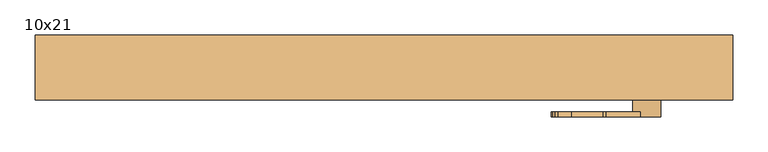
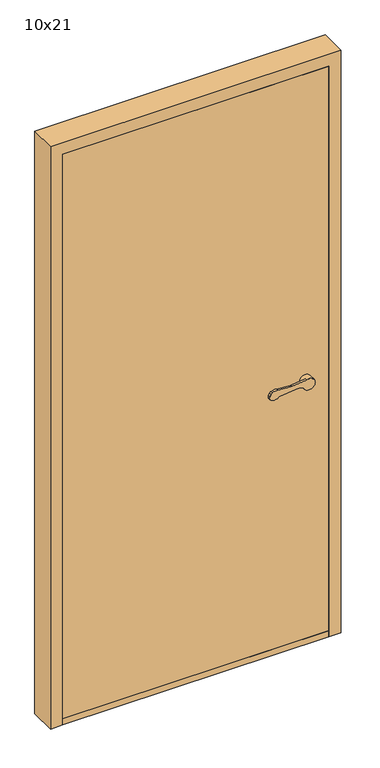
"""IFC4 building model written with IfcOpenShell, lengths in millimetres: door geometry, Innerdør Slett (Diplomat) : 10x21."""

from ifc_helpers import new_model, si_unit, point, frame, frame_2d, origin, origin_with_axes, place, context, project, spatial, polyline, circle_curve, trimmed, segment, composite_curve, outline, extrude, source, transform, mapped, element, save
from ifc_brep_helpers import plane_surface, cylinder_surface, revolved_surface, advanced_brep


def door_10x21_abd938eb(model_context):
    return source(origin(), model_context, "Body", "SolidModel", [
        advanced_brep(
        [(393.9611305, 9.0, 949.1175955), (388.8520664, 9.0, 949.9496913), (326.0476109, 9.0, 943.6260011), (296.721536, 9.0, 938.7393398), (291.8691983, 9.0, 951.8913379), (295.505009, 9.0, 959.9624074), (300.3175669, 9.0, 964.8810513), (318.8963175, 9.0, 967.2639242), (363.6202158, 9.0, 964.1804415), (368.6891233, 9.0, 964.26032), (417.2687793, 9.0, 969.1517356), (446.379633, 9.0, 951.3474568), (408.3841161, 9.0, 942.6204086), (368.6891233, 1.8915284, 964.26032), (363.6202158, 1.8915284, 964.1804415), (318.8963175, 1.8915284, 967.2639242), (300.3175669, 1.8915284, 964.8810513), (295.505009, 1.8915284, 959.9624074), (291.8691983, 1.8915284, 951.8913379), (296.721536, 1.8915284, 938.7393398), (326.0476109, 1.8915284, 943.6260011), (388.8520664, 1.8915284, 949.9496913), (393.9611305, 1.8915284, 949.1175955), (408.3841161, 1.8915284, 942.6204086), (406.379633, 1.8915284, 951.3474568), (417.2687793, 1.8915284, 969.1517356), (446.379633, -26.0, 951.3474568), (406.379633, -26.0, 951.3474568)],
        [
            (0, 1, circle_curve(frame((389.8538865, 9.0, 940.0), z_axis=(0.0, -1.0, 0.0), x_axis=(-0.9949691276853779, 0.0, -0.10018200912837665)), 10.0)),
            (1, 2),
            (2, 3, circle_curve(frame((307.8569644, 9.0, 962.352734), z_axis=(0.0, 1.0, 0.0), x_axis=(-0.9949691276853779, 0.0, -0.10018200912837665)), 26.1072815)),
            (3, 4, circle_curve(frame((300.9867937, 9.0, 947.7840939), z_axis=(0.0, 1.0, 0.0), x_axis=(-0.9949691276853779, 0.0, -0.10018200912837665)), 10.0)),
            (4, 5),
            (5, 6, circle_curve(frame((304.6226045, 9.0, 955.8551634), z_axis=(0.0, 1.0, 0.0), x_axis=(-0.9949691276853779, 0.0, -0.10018200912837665)), 10.0)),
            (6, 7, circle_curve(frame((313.2326797, 9.0, 937.8033877), z_axis=(0.0, 1.0, 0.0), x_axis=(-0.9949691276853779, 0.0, -0.10018200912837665)), 30.0)),
            (7, 8),
            (8, 9, circle_curve(frame((365.683663, 9.0, 994.1093938), z_axis=(0.0, -1.0, 0.0), x_axis=(-0.9949691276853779, 0.0, -0.10018200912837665)), 30.0)),
            (9, 10),
            (10, 11, circle_curve(frame((426.379633, 9.0, 951.3474568), z_axis=(0.0, 1.0, 0.0), x_axis=(-1.0, 0.0, 0.0)), 20.0)),
            (11, 12, circle_curve(frame((426.379633, 9.0, 951.3474568), z_axis=(0.0, 1.0, 0.0), x_axis=(-1.0, 0.0, 0.0)), 20.0)),
            (12, 0),
            (13, 14, circle_curve(frame((365.683663, 1.8915284, 994.1093938), z_axis=(0.0, 1.0, 0.0), x_axis=(-0.9949691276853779, 0.0, -0.10018200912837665)), 30.0)),
            (14, 15),
            (15, 16, circle_curve(frame((313.2326797, 1.8915284, 937.8033877), z_axis=(0.0, -1.0, 0.0), x_axis=(-0.9949691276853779, 0.0, -0.10018200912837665)), 30.0)),
            (16, 17, circle_curve(frame((304.6226045, 1.8915284, 955.8551634), z_axis=(0.0, -1.0, 0.0), x_axis=(-0.9949691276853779, 0.0, -0.10018200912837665)), 10.0)),
            (17, 18),
            (18, 19, circle_curve(frame((300.9867937, 1.8915284, 947.7840939), z_axis=(0.0, -1.0, 0.0), x_axis=(-0.9949691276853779, 0.0, -0.10018200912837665)), 10.0)),
            (19, 20, circle_curve(frame((307.8569644, 1.8915284, 962.352734), z_axis=(0.0, -1.0, 0.0), x_axis=(-0.9949691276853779, 0.0, -0.10018200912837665)), 26.1072815)),
            (20, 21),
            (21, 22, circle_curve(frame((389.8538865, 1.8915284, 940.0), z_axis=(0.0, 1.0, 0.0), x_axis=(-0.9949691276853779, 0.0, -0.10018200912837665)), 10.0)),
            (22, 23),
            (23, 24, circle_curve(frame((426.379633, 1.8915284, 951.3474568), z_axis=(0.0, 1.0, 0.0), x_axis=(-1.0, 0.0, 0.0)), 20.0)),
            (24, 25, circle_curve(frame((426.379633, 1.8915284, 951.3474568), z_axis=(0.0, 1.0, 0.0), x_axis=(-1.0, 0.0, 0.0)), 20.0)),
            (25, 13),
            (9, 13),
            (25, 10),
            (22, 0),
            (12, 23),
            (21, 1),
            (20, 2),
            (19, 3),
            (18, 4),
            (17, 5),
            (16, 6),
            (15, 7),
            (14, 8),
            (26, 27, circle_curve(frame((426.379633, -26.0, 951.3474568), z_axis=(0.0, -1.0, 0.0), x_axis=(-1.0, 0.0, 0.0)), 20.0)),
            (27, 26, circle_curve(frame((426.379633, -26.0, 951.3474568), z_axis=(0.0, -1.0, 0.0), x_axis=(-1.0, 0.0, 0.0)), 20.0)),
            (27, 24),
            (11, 26),
        ],
        [
            plane_surface(frame((417.6960588, 9.0, 969.1947577), z_axis=(0.0, 1.0000000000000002, 0.0), x_axis=(0.9949691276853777, 0.0, 0.10018200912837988))),
            plane_surface(frame((417.6960588, 1.8915284, 969.1947577), z_axis=(0.0, -1.0000000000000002, 0.0), x_axis=(-0.9949691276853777, 0.0, -0.10018200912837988))),
            plane_surface(frame((368.6891233, 9.0, 964.26032), z_axis=(-0.10018200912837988, 0.0, 0.9949691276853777), x_axis=(0.0, -1.0, 0.0))),
            plane_surface(frame((426.9687366, 9.0, 934.2485115), z_axis=(-0.41072439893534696, 0.0, -0.91175954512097), x_axis=(0.0, -1.0, 0.0))),
            revolved_surface(polyline([(379.9041952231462, 1.8915284, 938.9981799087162), (379.9041952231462, 9.0, 938.9981799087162)]), (389.8538865, 1.8915284, 940.0), (0.0, -1.0, 0.0)),
            plane_surface(frame((388.8520664, 9.0, 949.9496913), z_axis=(0.10018200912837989, 0.0, -0.9949691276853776), x_axis=(0.0, -1.0, 0.0))),
            cylinder_surface(frame((307.8569644, 1.8915284, 962.352734), z_axis=(0.0, 1.0, 0.0), x_axis=(-0.9949691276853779, 0.0, -0.10018200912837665)), 26.1072815),
            cylinder_surface(frame((300.9867937, 1.8915284, 947.7840939), z_axis=(0.0, 1.0, 0.0), x_axis=(-0.9949691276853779, 0.0, -0.10018200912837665)), 10.0),
            plane_surface(frame((291.8691983, 9.0, 951.8913379), z_axis=(-0.9117595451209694, 0.0, 0.41072439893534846), x_axis=(0.0, -1.0, 0.0))),
            cylinder_surface(frame((304.6226045, 1.8915284, 955.8551634), z_axis=(0.0, 1.0, 0.0), x_axis=(-0.9949691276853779, 0.0, -0.10018200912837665)), 10.0),
            cylinder_surface(frame((313.2326797, 1.8915284, 937.8033877), z_axis=(0.0, 1.0, 0.0), x_axis=(-0.9949691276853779, 0.0, -0.10018200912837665)), 30.0),
            plane_surface(frame((318.8963175, 9.0, 967.2639242), z_axis=(0.06878157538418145, 0.0, 0.9976317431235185), x_axis=(0.0, -1.0, 0.0))),
            revolved_surface(polyline([(335.8345891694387, 1.8915284, 991.1039335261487), (335.8345891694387, 9.0, 991.1039335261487)]), (365.683663, 1.8915284, 994.1093938), (0.0, -1.0, 0.0)),
            plane_surface(frame((406.379633, -26.0, 951.3474568), z_axis=(0.0, -1.0, 0.0), x_axis=(0.0, 0.0, -1.0))),
            cylinder_surface(frame((426.379633, -26.0, 951.3474568), z_axis=(0.0, 1.0, 0.0), x_axis=(-1.0, 0.0, 0.0)), 20.0),
        ],
        [
            (0, [[1, 2, 3, 4, 5, 6, 7, 8, 9, 10, 11, 12, 13]]),
            (1, [[14, 15, 16, 17, 18, 19, 20, 21, 22, 23, 24, 25, 26]]),
            (2, [[27, -26, 28, -10]]),
            (3, [[29, -13, 30, -23]]),
            (4, [[-1, -29, -22, 31]]),
            (5, [[-2, -31, -21, 32]]),
            (6, [[-3, -32, -20, 33]]),
            (7, [[-4, -33, -19, 34]]),
            (8, [[-5, -34, -18, 35]]),
            (9, [[-6, -35, -17, 36]]),
            (10, [[-7, -36, -16, 37]]),
            (11, [[-8, -37, -15, 38]]),
            (12, [[-9, -38, -14, -27]]),
            (13, [[39, 40]]),
            (14, [[-40, 41, -24, -30, -12, 42]]),
            (14, [[-39, -42, -11, -28, -25, -41]]),
        ],
    ),
        extrude(outline(composite_curve([segment(trimmed(circle_curve(frame_2d((866.3474568, 426.379633)), 20.0), [point((866.3474568, 446.379633))], [point((866.3474568, 406.379633))], False, "CARTESIAN"), True, "CONTINUOUS"), segment(trimmed(circle_curve(frame_2d((866.3474568, 426.379633)), 20.0), [point((866.3474568, 406.379633))], [point((866.3474568, 446.379633))], False, "CARTESIAN"), True, "CONTINUOUS")], self_intersect=False)), frame((0.0, -26.0, 0.0), z_axis=(0.0, 1.0, 0.0), x_axis=(0.0, 0.0, 1.0)), (0.0, 0.0, 1.0), 5.0),
        advanced_brep(
        [(393.9611305, -100.0, 949.1175955), (408.3841161, -100.0, 942.6204086), (446.379633, -100.0, 951.3474568), (417.2687793, -100.0, 969.1517356), (368.6891233, -100.0, 964.26032), (363.6202158, -100.0, 964.1804415), (318.8963175, -100.0, 967.2639242), (300.3175669, -100.0, 964.8810513), (295.505009, -100.0, 959.9624074), (291.8691983, -100.0, 951.8913379), (296.721536, -100.0, 938.7393398), (326.0476109, -100.0, 943.6260011), (388.8520664, -100.0, 949.9496913), (368.6891233, -92.8915284, 964.26032), (417.2687793, -92.8915284, 969.1517356), (406.379633, -92.8915284, 951.3474568), (408.3841161, -92.8915284, 942.6204086), (393.9611305, -92.8915284, 949.1175955), (388.8520664, -92.8915284, 949.9496913), (326.0476109, -92.8915284, 943.6260011), (296.721536, -92.8915284, 938.7393398), (291.8691983, -92.8915284, 951.8913379), (295.505009, -92.8915284, 959.9624074), (300.3175669, -92.8915284, 964.8810513), (318.8963175, -92.8915284, 967.2639242), (363.6202158, -92.8915284, 964.1804415), (446.379633, -65.0, 951.3474568), (406.379633, -65.0, 951.3474568)],
        [
            (0, 1),
            (1, 2, circle_curve(frame((426.379633, -100.0, 951.3474568), z_axis=(0.0, -1.0, 0.0), x_axis=(-1.0, 0.0, 0.0)), 20.0)),
            (2, 3, circle_curve(frame((426.379633, -100.0, 951.3474568), z_axis=(0.0, -1.0, 0.0), x_axis=(-1.0, 0.0, 0.0)), 20.0)),
            (3, 4),
            (4, 5, circle_curve(frame((365.683663, -100.0, 994.1093938), z_axis=(0.0, 1.0, 0.0), x_axis=(-0.9949691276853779, 0.0, -0.10018200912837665)), 30.0)),
            (5, 6),
            (6, 7, circle_curve(frame((313.2326797, -100.0, 937.8033877), z_axis=(0.0, -1.0, 0.0), x_axis=(-0.9949691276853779, 0.0, -0.10018200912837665)), 30.0)),
            (7, 8, circle_curve(frame((304.6226045, -100.0, 955.8551634), z_axis=(0.0, -1.0, 0.0), x_axis=(-0.9949691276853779, 0.0, -0.10018200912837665)), 10.0)),
            (8, 9),
            (9, 10, circle_curve(frame((300.9867937, -100.0, 947.7840939), z_axis=(0.0, -1.0, 0.0), x_axis=(-0.9949691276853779, 0.0, -0.10018200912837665)), 10.0)),
            (10, 11, circle_curve(frame((307.8569644, -100.0, 962.352734), z_axis=(0.0, -1.0, 0.0), x_axis=(-0.9949691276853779, 0.0, -0.10018200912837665)), 26.1072815)),
            (11, 12),
            (12, 0, circle_curve(frame((389.8538865, -100.0, 940.0), z_axis=(0.0, 1.0, 0.0), x_axis=(-0.9949691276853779, 0.0, -0.10018200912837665)), 10.0)),
            (13, 14),
            (14, 15, circle_curve(frame((426.379633, -92.8915284, 951.3474568), z_axis=(0.0, -1.0, 0.0), x_axis=(-1.0, 0.0, 0.0)), 20.0)),
            (15, 16, circle_curve(frame((426.379633, -92.8915284, 951.3474568), z_axis=(0.0, -1.0, 0.0), x_axis=(-1.0, 0.0, 0.0)), 20.0)),
            (16, 17),
            (17, 18, circle_curve(frame((389.8538865, -92.8915284, 940.0), z_axis=(0.0, -1.0, 0.0), x_axis=(-0.9949691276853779, 0.0, -0.10018200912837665)), 10.0)),
            (18, 19),
            (19, 20, circle_curve(frame((307.8569644, -92.8915284, 962.352734), z_axis=(0.0, 1.0, 0.0), x_axis=(-0.9949691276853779, 0.0, -0.10018200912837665)), 26.1072815)),
            (20, 21, circle_curve(frame((300.9867937, -92.8915284, 947.7840939), z_axis=(0.0, 1.0, 0.0), x_axis=(-0.9949691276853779, 0.0, -0.10018200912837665)), 10.0)),
            (21, 22),
            (22, 23, circle_curve(frame((304.6226045, -92.8915284, 955.8551634), z_axis=(0.0, 1.0, 0.0), x_axis=(-0.9949691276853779, 0.0, -0.10018200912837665)), 10.0)),
            (23, 24, circle_curve(frame((313.2326797, -92.8915284, 937.8033877), z_axis=(0.0, 1.0, 0.0), x_axis=(-0.9949691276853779, 0.0, -0.10018200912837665)), 30.0)),
            (24, 25),
            (25, 13, circle_curve(frame((365.683663, -92.8915284, 994.1093938), z_axis=(0.0, -1.0, 0.0), x_axis=(-0.9949691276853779, 0.0, -0.10018200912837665)), 30.0)),
            (3, 14),
            (13, 4),
            (16, 1),
            (0, 17),
            (12, 18),
            (11, 19),
            (10, 20),
            (9, 21),
            (8, 22),
            (7, 23),
            (6, 24),
            (5, 25),
            (26, 27, circle_curve(frame((426.379633, -65.0, 951.3474568), z_axis=(0.0, 1.0, 0.0), x_axis=(-1.0, 0.0, 0.0)), 20.0)),
            (27, 26, circle_curve(frame((426.379633, -65.0, 951.3474568), z_axis=(0.0, 1.0, 0.0), x_axis=(-1.0, 0.0, 0.0)), 20.0)),
            (26, 2),
            (15, 27),
        ],
        [
            plane_surface(frame((417.6960588, -100.0, 969.1947577), z_axis=(0.0, -1.0000000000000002, 0.0), x_axis=(0.9949691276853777, 0.0, 0.10018200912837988))),
            plane_surface(frame((417.6960588, -92.8915284, 969.1947577), z_axis=(0.0, 1.0000000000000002, 0.0), x_axis=(-0.9949691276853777, 0.0, -0.10018200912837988))),
            plane_surface(frame((368.6891233, -100.0, 964.26032), z_axis=(-0.10018200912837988, 0.0, 0.9949691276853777), x_axis=(0.0, 1.0, 0.0))),
            plane_surface(frame((426.9687366, -100.0, 934.2485115), z_axis=(-0.41072439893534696, 0.0, -0.91175954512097), x_axis=(0.0, 1.0, 0.0))),
            revolved_surface(polyline([(379.9041952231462, -92.8915284, 938.9981799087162), (379.9041952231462, -100.0, 938.9981799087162)]), (389.8538865, -92.8915284, 940.0), (0.0, 1.0, 0.0)),
            plane_surface(frame((388.8520664, -100.0, 949.9496913), z_axis=(0.10018200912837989, 0.0, -0.9949691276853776), x_axis=(0.0, 1.0, 0.0))),
            cylinder_surface(frame((307.8569644, -92.8915284, 962.352734), z_axis=(0.0, -1.0, 0.0), x_axis=(-0.9949691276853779, 0.0, -0.10018200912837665)), 26.1072815),
            cylinder_surface(frame((300.9867937, -92.8915284, 947.7840939), z_axis=(0.0, -1.0, 0.0), x_axis=(-0.9949691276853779, 0.0, -0.10018200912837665)), 10.0),
            plane_surface(frame((291.8691983, -100.0, 951.8913379), z_axis=(-0.9117595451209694, 0.0, 0.41072439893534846), x_axis=(0.0, 1.0, 0.0))),
            cylinder_surface(frame((304.6226045, -92.8915284, 955.8551634), z_axis=(0.0, -1.0, 0.0), x_axis=(-0.9949691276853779, 0.0, -0.10018200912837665)), 10.0),
            cylinder_surface(frame((313.2326797, -92.8915284, 937.8033877), z_axis=(0.0, -1.0, 0.0), x_axis=(-0.9949691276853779, 0.0, -0.10018200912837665)), 30.0),
            plane_surface(frame((318.8963175, -100.0, 967.2639242), z_axis=(0.06878157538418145, 0.0, 0.9976317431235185), x_axis=(0.0, 1.0, 0.0))),
            revolved_surface(polyline([(335.8345891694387, -92.8915284, 991.1039335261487), (335.8345891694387, -100.0, 991.1039335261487)]), (365.683663, -92.8915284, 994.1093938), (0.0, 1.0, 0.0)),
            plane_surface(frame((406.379633, -65.0, 951.3474568), z_axis=(0.0, 1.0, 0.0), x_axis=(0.0, 0.0, -1.0))),
            cylinder_surface(frame((426.379633, -65.0, 951.3474568), z_axis=(0.0, -1.0, 0.0), x_axis=(-1.0, 0.0, 0.0)), 20.0),
        ],
        [
            (0, [[1, 2, 3, 4, 5, 6, 7, 8, 9, 10, 11, 12, 13]]),
            (1, [[14, 15, 16, 17, 18, 19, 20, 21, 22, 23, 24, 25, 26]]),
            (2, [[-4, 27, -14, 28]]),
            (3, [[-17, 29, -1, 30]]),
            (4, [[31, -18, -30, -13]]),
            (5, [[32, -19, -31, -12]]),
            (6, [[33, -20, -32, -11]]),
            (7, [[34, -21, -33, -10]]),
            (8, [[35, -22, -34, -9]]),
            (9, [[36, -23, -35, -8]]),
            (10, [[37, -24, -36, -7]]),
            (11, [[38, -25, -37, -6]]),
            (12, [[-28, -26, -38, -5]]),
            (13, [[39, 40]]),
            (14, [[41, -2, -29, -16, 42, -39]]),
            (14, [[-42, -15, -27, -3, -41, -40]]),
        ],
    ),
        extrude(outline(composite_curve([segment(trimmed(circle_curve(frame_2d((866.3474568, 426.379633)), 20.0), [point((866.3474568, 446.379633))], [point((866.3474568, 406.379633))], False, "CARTESIAN"), True, "CONTINUOUS"), segment(trimmed(circle_curve(frame_2d((866.3474568, 426.379633)), 20.0), [point((866.3474568, 406.379633))], [point((866.3474568, 446.379633))], False, "CARTESIAN"), True, "CONTINUOUS")], self_intersect=False)), frame((0.0, -70.0, 0.0), z_axis=(0.0, 1.0, 0.0), x_axis=(0.0, 0.0, 1.0)), (0.0, 0.0, 1.0), 5.0),
        extrude(outline(polyline([(506.379633, 16.0), (506.379633, -76.0), (-399.620367, -76.0), (-399.620367, 16.0), (506.379633, 16.0)])), origin_with_axes(), (0.0, 0.0, 1.0), 22.0),
        extrude(outline(polyline([(506.379633, -26.0), (506.379633, -76.0), (-399.620367, -76.0), (-399.620367, -26.0), (506.379633, -26.0)])), frame((0.0, 0.0, 22.0), z_axis=(0.0, 0.0, 1.0), x_axis=(1.0, 0.0, 0.0)), (0.0, 0.0, 1.0), 2031.0),
        extrude(outline(polyline([(0.0, -399.620367), (2053.0, -399.620367), (2053.0, 506.379633), (0.0, 506.379633), (0.0, 548.379633), (2095.0, 548.379633), (2095.0, -441.620367), (0.0, -441.620367), (0.0, -399.620367)])), frame((0.0, -76.0, 0.0), z_axis=(0.0, 1.0, 0.0), x_axis=(0.0, 0.0, 1.0)), (0.0, 0.0, 1.0), 92.0),
    ])


if __name__ == "__main__":
    model = new_model("IFC4")
    model_context = context("Model", 3, world=origin())
    ifc_project = project(units=[si_unit("LENGTHUNIT", "METRE", prefix="MILLI")], contexts=[model_context])
    site = spatial("IfcSite", under=ifc_project)
    building = spatial("IfcBuilding", under=site)
    placement = place(None, origin())
    door_10x21_shape = door_10x21_abd938eb(model_context)
    element("IfcDoor", 1, ObjectType="Innerdør Slett (Diplomat) : 10x21", at=placement, inside=building, context=model_context, shape_type="MappedRepresentation", body=[
        mapped(door_10x21_shape, transform((0.0, 0.0, 0.0), x_axis=(1.0, 0.0, 0.0), y_axis=(0.0, 1.0, 0.0), z_axis=(0.0, 0.0, 1.0))),
    ])
    save(model, "model.ifc")
